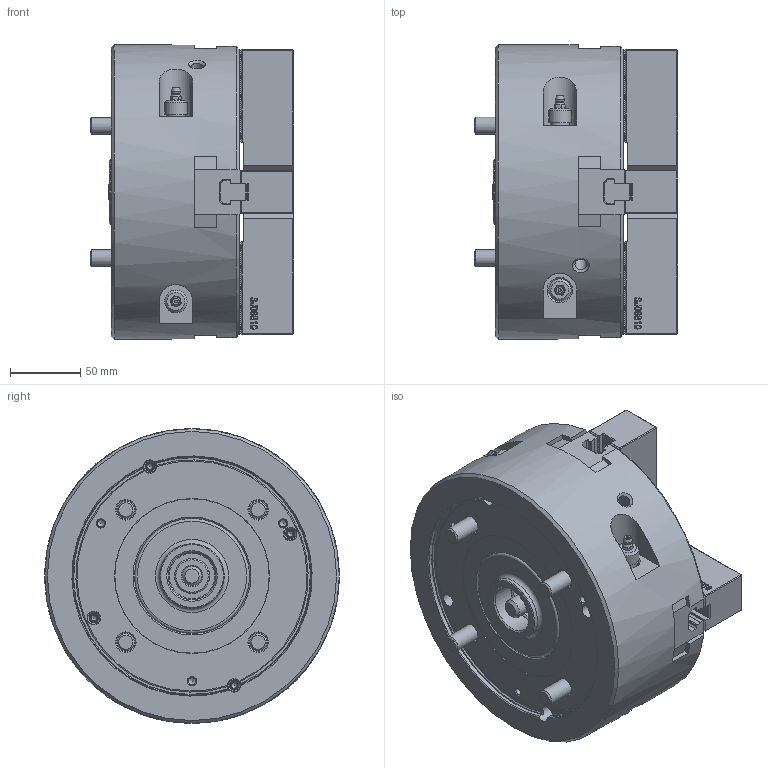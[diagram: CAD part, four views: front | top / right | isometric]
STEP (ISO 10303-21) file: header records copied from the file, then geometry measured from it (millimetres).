
FILE_DESCRIPTION (( 'STEP AP214' ), '1' );
FILE_NAME ('DT1_HW-08_OUTSIDE_VIEW_OC.STEP', '2024-05-09T23:18:47', ( '' ), ( '' ), 'SwSTEP 2.0', 'SolidWorks 2022', '' );
FILE_SCHEMA (( 'AUTOMOTIVE_DESIGN' ));
Length unit declared in the file: millimetre
Products named in the file (11): DT1_HW-08_COVER^DT1_HW-08_ﾃﾞﾌｫﾙﾄ; DT1_HW-08_BASE^DT1_HW-08_ﾃﾞﾌｫﾙﾄ; DT1_HW-08_DN^DT1_HW-08_ﾃﾞﾌｫﾙﾄ; DT1_HW-08_SOFTJAW^DT1_HW-08_ﾃﾞﾌｫﾙﾄ; DT1_HW08_DRAWSCREW^DT1_HW-08_ﾃﾞﾌｫﾙﾄ; Copy of 0080010810^DT1_HW-08_ﾃﾞﾌｫﾙﾄ; DT1_HW-08_OUTSIDE_VIEW_OC; DT1_HW-08_TNUT^DT1_HW-08_ﾃﾞﾌｫﾙﾄ; DT1_HW-08_M12x90^DT1_HW-08_ﾃﾞﾌｫﾙﾄ; DT1_HW-08_M5x10^DT1_HW-08_ﾃﾞﾌｫﾙﾄ; DT1_HW-08_M10x25^DT1_HW-08_ﾃﾞﾌｫﾙﾄ
Assembly tree (29 placements, depth 2):
  DT1_HW-08_OUTSIDE_VIEW_OC
    DT1_HW-08_SOFTJAW^DT1_HW-08_ﾃﾞﾌｫﾙﾄ  x4
    DT1_HW-08_TNUT^DT1_HW-08_ﾃﾞﾌｫﾙﾄ  x4
    DT1_HW-08_COVER^DT1_HW-08_ﾃﾞﾌｫﾙﾄ
    DT1_HW08_DRAWSCREW^DT1_HW-08_ﾃﾞﾌｫﾙﾄ
    DT1_HW-08_BASE^DT1_HW-08_ﾃﾞﾌｫﾙﾄ
    DT1_HW-08_DN^DT1_HW-08_ﾃﾞﾌｫﾙﾄ
    DT1_HW-08_M12x90^DT1_HW-08_ﾃﾞﾌｫﾙﾄ  x4
    DT1_HW-08_M10x25^DT1_HW-08_ﾃﾞﾌｫﾙﾄ  x8
    DT1_HW-08_M5x10^DT1_HW-08_ﾃﾞﾌｫﾙﾄ  x4
    Copy of 0080010810^DT1_HW-08_ﾃﾞﾌｫﾙﾄ
Bounding box: 145 x 210 x 210 mm (x, y, z)
Volume: 3276570.3 mm3; surface area: 340994 mm2
Topology: 29 solids, 37 shells, 4974 faces, 14012 edges, 9269 vertices
Faces by surface type: plane 3218, cylinder 887, bspline 560, cone 268, torus 37, sphere 4
Full cylindrical faces by diameter (mm): 2 x4, 4.2 x4, 5 x7, 5.5 x4, 6 x1, 6.8 x4, 8 x1, 8.5 x2, 8.6 x8, 9.5 x8, 10 x12, 11 x8, 12 x5, 12.2 x1, 13.5 x8, 14 x2, 16 x4, 16.1 x4, 16.27 x8, 17 x8, 18.27 x4, 20 x4, 21 x2, 25 x1, 32.376 x1, 34 x1, 35 x2, 46 x1, 82 x1, 110 x1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
Entity records: 105413 total; most frequent: CARTESIAN_POINT 31604, ORIENTED_EDGE 16576, DIRECTION 12893, EDGE_CURVE 8288, LINE 6013, VECTOR 6013, VERTEX_POINT 5579, AXIS2_PLACEMENT_3D 3440
